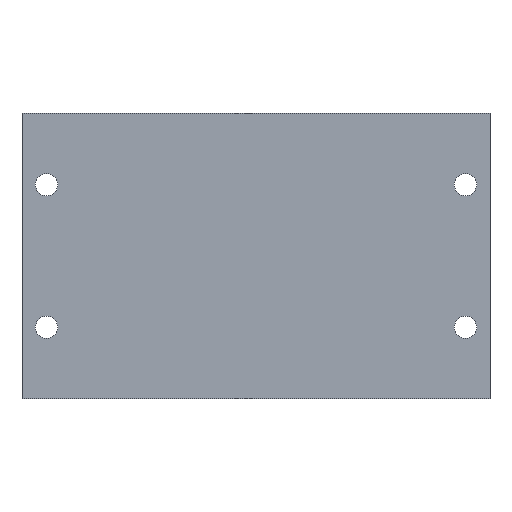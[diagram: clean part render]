
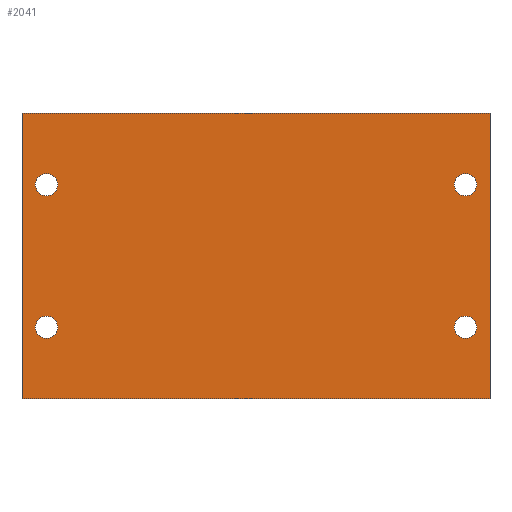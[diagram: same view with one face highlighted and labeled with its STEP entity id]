
A CAD part, left-side view. The second image highlights one B-rep face of the part: STEP entity #2041.
In plain terms, the highlighted planar face has unit normal (-1, 0, 0).
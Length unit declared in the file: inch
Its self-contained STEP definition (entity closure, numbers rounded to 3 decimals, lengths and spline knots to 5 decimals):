
#16 = EDGE_CURVE ( 'NONE', #1003, #965, #1888, .T. ) ;
#34 = EDGE_LOOP ( 'NONE', ( #1245, #765 ) ) ;
#56 = VERTEX_POINT ( 'NONE', #1079 ) ;
#58 = EDGE_CURVE ( 'NONE', #56, #1851, #1353, .T. ) ;
#72 = DIRECTION ( 'NONE',  ( 0., 0., -1. ) ) ;
#78 = AXIS2_PLACEMENT_3D ( 'NONE', #1207, #1455, #2879 ) ;
#156 = DIRECTION ( 'NONE',  ( -1., 0., 0. ) ) ;
#166 = DIRECTION ( 'NONE',  ( 0., -1., 0. ) ) ;
#176 = DIRECTION ( 'NONE',  ( 0., 0., -1. ) ) ;
#188 = CARTESIAN_POINT ( 'NONE',  ( 0., 0., 2.51969 ) ) ;
#196 = VERTEX_POINT ( 'NONE', #3060 ) ;
#238 = CARTESIAN_POINT ( 'NONE',  ( 0., 0., 2.51969 ) ) ;
#263 = AXIS2_PLACEMENT_3D ( 'NONE', #2522, #1112, #1314 ) ;
#315 = EDGE_CURVE ( 'NONE', #2969, #889, #449, .T. ) ;
#341 = DIRECTION ( 'NONE',  ( 0., 1., 0. ) ) ;
#373 = EDGE_CURVE ( 'NONE', #965, #956, #1881, .T. ) ;
#377 = CARTESIAN_POINT ( 'NONE',  ( 0., 0., 2.51969 ) ) ;
#386 = ORIENTED_EDGE ( 'NONE', *, *, #1492, .F. ) ;
#417 = CARTESIAN_POINT ( 'NONE',  ( 0., 3.91732, 1.88976 ) ) ;
#421 = DIRECTION ( 'NONE',  ( 0., 0., -1. ) ) ;
#439 = DIRECTION ( 'NONE',  ( 0., 0., -1. ) ) ;
#444 = DIRECTION ( 'NONE',  ( -1., 0., 0. ) ) ;
#449 = CIRCLE ( 'NONE', #78, 0.09843 ) ;
#482 = CARTESIAN_POINT ( 'NONE',  ( 0., 4.13386, 0. ) ) ;
#484 = EDGE_CURVE ( 'NONE', #196, #2441, #2558, .T. ) ;
#497 = CARTESIAN_POINT ( 'NONE',  ( 0., 4.13386, 2.51969 ) ) ;
#498 = ORIENTED_EDGE ( 'NONE', *, *, #58, .F. ) ;
#507 = CIRCLE ( 'NONE', #2648, 0.09843 ) ;
#539 = ORIENTED_EDGE ( 'NONE', *, *, #373, .F. ) ;
#669 = CIRCLE ( 'NONE', #2644, 0.09843 ) ;
#674 = CARTESIAN_POINT ( 'NONE',  ( 0., 0., 2.51969 ) ) ;
#675 = DIRECTION ( 'NONE',  ( 0., 0., -1. ) ) ;
#688 = DIRECTION ( 'NONE',  ( 0., 0., 1. ) ) ;
#765 = ORIENTED_EDGE ( 'NONE', *, *, #315, .F. ) ;
#809 = EDGE_CURVE ( 'NONE', #1851, #56, #1421, .T. ) ;
#815 = EDGE_LOOP ( 'NONE', ( #498, #1111 ) ) ;
#835 = CARTESIAN_POINT ( 'NONE',  ( 0., 0.21654, 0.72835 ) ) ;
#840 = CARTESIAN_POINT ( 'NONE',  ( 0., 3.91732, 1.98819 ) ) ;
#889 = VERTEX_POINT ( 'NONE', #2343 ) ;
#897 = AXIS2_PLACEMENT_3D ( 'NONE', #2375, #444, #421 ) ;
#956 = VERTEX_POINT ( 'NONE', #2141 ) ;
#965 = VERTEX_POINT ( 'NONE', #482 ) ;
#984 = VECTOR ( 'NONE', #688, 39.37008 ) ;
#1000 = ORIENTED_EDGE ( 'NONE', *, *, #484, .F. ) ;
#1003 = VERTEX_POINT ( 'NONE', #2894 ) ;
#1015 = AXIS2_PLACEMENT_3D ( 'NONE', #2616, #1882, #439 ) ;
#1079 = CARTESIAN_POINT ( 'NONE',  ( 0., 0.21654, 0.5315 ) ) ;
#1111 = ORIENTED_EDGE ( 'NONE', *, *, #809, .F. ) ;
#1112 = DIRECTION ( 'NONE',  ( -1., 0., 0. ) ) ;
#1132 = LINE ( 'NONE', #377, #2815 ) ;
#1193 = FACE_BOUND ( 'NONE', #815, .T. ) ;
#1207 = CARTESIAN_POINT ( 'NONE',  ( 0., 3.91732, 1.88976 ) ) ;
#1219 = EDGE_LOOP ( 'NONE', ( #2011, #1364, #539, #1319 ) ) ;
#1245 = ORIENTED_EDGE ( 'NONE', *, *, #2370, .F. ) ;
#1290 = AXIS2_PLACEMENT_3D ( 'NONE', #188, #1826, #675 ) ;
#1314 = DIRECTION ( 'NONE',  ( 0., 0., -1. ) ) ;
#1319 = ORIENTED_EDGE ( 'NONE', *, *, #16, .F. ) ;
#1353 = CIRCLE ( 'NONE', #263, 0.09843 ) ;
#1354 = AXIS2_PLACEMENT_3D ( 'NONE', #3071, #2822, #176 ) ;
#1364 = ORIENTED_EDGE ( 'NONE', *, *, #2543, .F. ) ;
#1367 = CARTESIAN_POINT ( 'NONE',  ( 0., 3.91732, 0.72835 ) ) ;
#1407 = VECTOR ( 'NONE', #166, 39.37008 ) ;
#1411 = EDGE_CURVE ( 'NONE', #1595, #1003, #1132, .T. ) ;
#1421 = CIRCLE ( 'NONE', #1015, 0.09843 ) ;
#1455 = DIRECTION ( 'NONE',  ( -1., 0., 0. ) ) ;
#1492 = EDGE_CURVE ( 'NONE', #1666, #2495, #1954, .T. ) ;
#1536 = CIRCLE ( 'NONE', #1354, 0.09843 ) ;
#1549 = CARTESIAN_POINT ( 'NONE',  ( 0., 0., 0. ) ) ;
#1592 = PLANE ( 'NONE',  #1290 ) ;
#1595 = VERTEX_POINT ( 'NONE', #238 ) ;
#1598 = DIRECTION ( 'NONE',  ( 0., 0., -1. ) ) ;
#1608 = CARTESIAN_POINT ( 'NONE',  ( 0., 0.21654, 1.88976 ) ) ;
#1615 = FACE_BOUND ( 'NONE', #34, .T. ) ;
#1666 = VERTEX_POINT ( 'NONE', #2126 ) ;
#1763 = DIRECTION ( 'NONE',  ( -1., 0., 0. ) ) ;
#1826 = DIRECTION ( 'NONE',  ( 1., 0., 0. ) ) ;
#1851 = VERTEX_POINT ( 'NONE', #835 ) ;
#1881 = LINE ( 'NONE', #497, #984 ) ;
#1882 = DIRECTION ( 'NONE',  ( -1., 0., 0. ) ) ;
#1888 = LINE ( 'NONE', #1549, #3085 ) ;
#1954 = CIRCLE ( 'NONE', #897, 0.09843 ) ;
#2011 = ORIENTED_EDGE ( 'NONE', *, *, #1411, .F. ) ;
#2033 = EDGE_CURVE ( 'NONE', #2441, #196, #1536, .T. ) ;
#2038 = DIRECTION ( 'NONE',  ( -1., 0., 0. ) ) ;
#2041 = ADVANCED_FACE ( 'NONE', ( #2335, #1193, #2252, #1615, #2485 ), #1592, .F. ) ;
#2052 = EDGE_CURVE ( 'NONE', #2495, #1666, #669, .T. ) ;
#2088 = EDGE_LOOP ( 'NONE', ( #386, #2670 ) ) ;
#2126 = CARTESIAN_POINT ( 'NONE',  ( 0., 0.21654, 1.79134 ) ) ;
#2141 = CARTESIAN_POINT ( 'NONE',  ( 0., 4.13386, 2.51969 ) ) ;
#2252 = FACE_BOUND ( 'NONE', #2946, .T. ) ;
#2276 = LINE ( 'NONE', #674, #1407 ) ;
#2326 = DIRECTION ( 'NONE',  ( 0., 0., -1. ) ) ;
#2335 = FACE_OUTER_BOUND ( 'NONE', #1219, .T. ) ;
#2343 = CARTESIAN_POINT ( 'NONE',  ( 0., 3.91732, 1.79134 ) ) ;
#2370 = EDGE_CURVE ( 'NONE', #889, #2969, #507, .T. ) ;
#2375 = CARTESIAN_POINT ( 'NONE',  ( 0., 0.21654, 1.88976 ) ) ;
#2441 = VERTEX_POINT ( 'NONE', #1367 ) ;
#2485 = FACE_BOUND ( 'NONE', #2088, .T. ) ;
#2495 = VERTEX_POINT ( 'NONE', #2834 ) ;
#2522 = CARTESIAN_POINT ( 'NONE',  ( 0., 0.21654, 0.62992 ) ) ;
#2543 = EDGE_CURVE ( 'NONE', #956, #1595, #2276, .T. ) ;
#2558 = CIRCLE ( 'NONE', #2561, 0.09843 ) ;
#2561 = AXIS2_PLACEMENT_3D ( 'NONE', #2748, #1763, #72 ) ;
#2606 = DIRECTION ( 'NONE',  ( 0., 0., -1. ) ) ;
#2616 = CARTESIAN_POINT ( 'NONE',  ( 0., 0.21654, 0.62992 ) ) ;
#2644 = AXIS2_PLACEMENT_3D ( 'NONE', #1608, #156, #2326 ) ;
#2648 = AXIS2_PLACEMENT_3D ( 'NONE', #417, #2038, #2606 ) ;
#2670 = ORIENTED_EDGE ( 'NONE', *, *, #2052, .F. ) ;
#2748 = CARTESIAN_POINT ( 'NONE',  ( 0., 3.91732, 0.62992 ) ) ;
#2815 = VECTOR ( 'NONE', #1598, 39.37008 ) ;
#2822 = DIRECTION ( 'NONE',  ( -1., 0., 0. ) ) ;
#2834 = CARTESIAN_POINT ( 'NONE',  ( 0., 0.21654, 1.98819 ) ) ;
#2874 = ORIENTED_EDGE ( 'NONE', *, *, #2033, .F. ) ;
#2879 = DIRECTION ( 'NONE',  ( 0., 0., -1. ) ) ;
#2894 = CARTESIAN_POINT ( 'NONE',  ( 0., 0., 0. ) ) ;
#2946 = EDGE_LOOP ( 'NONE', ( #1000, #2874 ) ) ;
#2969 = VERTEX_POINT ( 'NONE', #840 ) ;
#3060 = CARTESIAN_POINT ( 'NONE',  ( 0., 3.91732, 0.5315 ) ) ;
#3071 = CARTESIAN_POINT ( 'NONE',  ( 0., 3.91732, 0.62992 ) ) ;
#3085 = VECTOR ( 'NONE', #341, 39.37008 ) ;
